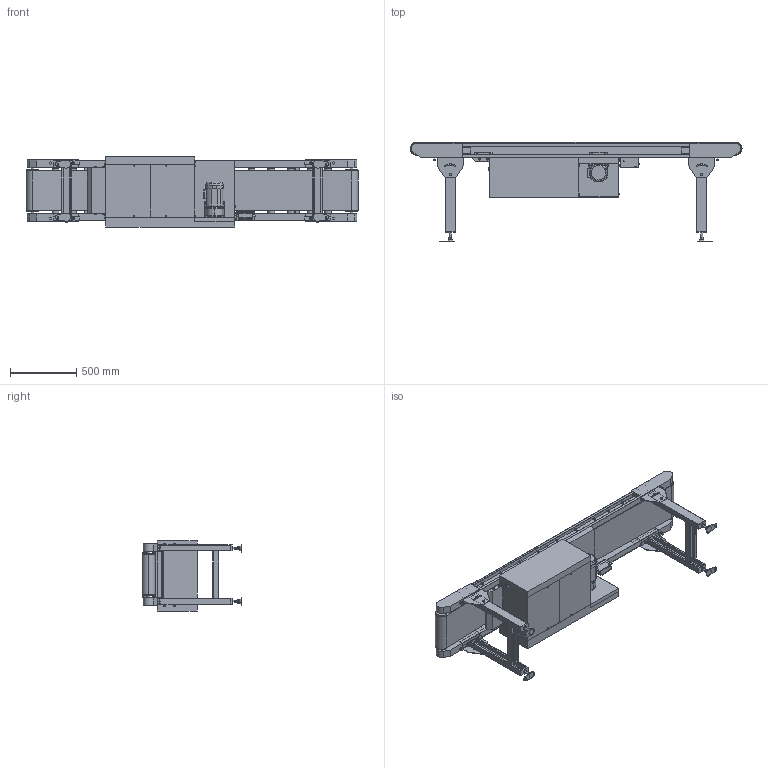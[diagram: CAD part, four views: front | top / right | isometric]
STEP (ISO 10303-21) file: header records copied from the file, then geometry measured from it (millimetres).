
FILE_DESCRIPTION( (''), '2;1');
FILE_NAME ('MUB1C-UD-3-075-300-250-R-K-50S.stp','2025-02-17T15:32:10',(''),(''),'spGate 20.6.2 (****-****-****-****)','','');
FILE_SCHEMA (('AUTOMOTIVE_DESIGN'));
Length unit declared in the file: millimetre
Products named in the file (43): NewModel; TEMP_X_T-prt0; TEMP_X_T-prt1; TEMP_X_T-prt2; TEMP_X_T-prt3; TEMP_X_T-prt4; TEMP_X_T-prt5; TEMP_X_T-prt6; TEMP_X_T-prt7; TEMP_X_T-prt8; TEMP_X_T-prt9; TEMP_X_T-prt10; TEMP_X_T-prt11; TEMP_X_T-prt12; TEMP_X_T-prt13; TEMP_X_T-prt14; TEMP_X_T-prt15; TEMP_X_T-prt16; TEMP_X_T-prt17; TEMP_X_T-prt18; TEMP_X_T-prt19; TEMP_X_T-prt20; TEMP_X_T-prt21; TEMP_X_T-prt22; TEMP_X_T-prt23; TEMP_X_T-prt24; TEMP_X_T-prt25; TEMP_X_T-prt26; TEMP_X_T-prt27; TEMP_X_T-prt28; TEMP_X_T-prt29; TEMP_X_T-prt30; TEMP_X_T-prt31; TEMP_X_T-prt32; TEMP_X_T-prt33; TEMP_X_T-prt34; TEMP_X_T-prt35; TEMP_X_T-prt36; TEMP_X_T-prt37; TEMP_X_T-prt38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
Assembly tree (42 placements, depth 2):
  NewModel
    TEMP_X_T-prt0
    TEMP_X_T-prt1
    TEMP_X_T-prt2
    TEMP_X_T-prt3
    TEMP_X_T-prt4
    TEMP_X_T-prt5
    TEMP_X_T-prt6
    TEMP_X_T-prt7
    TEMP_X_T-prt8
    TEMP_X_T-prt9
    TEMP_X_T-prt10
    TEMP_X_T-prt11
    TEMP_X_T-prt12
    TEMP_X_T-prt13
    TEMP_X_T-prt14
    TEMP_X_T-prt15
    TEMP_X_T-prt16
    TEMP_X_T-prt17
    TEMP_X_T-prt18
    TEMP_X_T-prt19
    TEMP_X_T-prt20
    TEMP_X_T-prt21
    TEMP_X_T-prt22
    TEMP_X_T-prt23
    TEMP_X_T-prt24
    TEMP_X_T-prt25
    TEMP_X_T-prt26
    TEMP_X_T-prt27
    TEMP_X_T-prt28
    TEMP_X_T-prt29
    TEMP_X_T-prt30
    TEMP_X_T-prt31
    TEMP_X_T-prt32
    TEMP_X_T-prt33
    TEMP_X_T-prt34
    TEMP_X_T-prt35
    TEMP_X_T-prt36
    TEMP_X_T-prt37
    TEMP_X_T-prt38
    TEMP_X_T-prt39
    TEMP_X_T-prt40
    TEMP_X_T-prt41
Bounding box: 2509.76 x 755 x 530 mm (x, y, z)
Volume: 240038713.6 mm3; surface area: 10116789.9 mm2
Topology: 42 solids, 42 shells, 2276 faces, 5747 edges, 3715 vertices
Faces by surface type: plane 1743, cylinder 450, bspline 83
Entity records: 116547 total; most frequent: CARTESIAN_POINT 14222, ORIENTED_EDGE 11494, DIRECTION 11046, COLOUR_RGB 8065, PRESENTATION_STYLE_ASSIGNMENT 8065, STYLED_ITEM 8065, EDGE_CURVE 5747, DRAUGHTING_PRE_DEFINED_CURVE_FONT 5747
